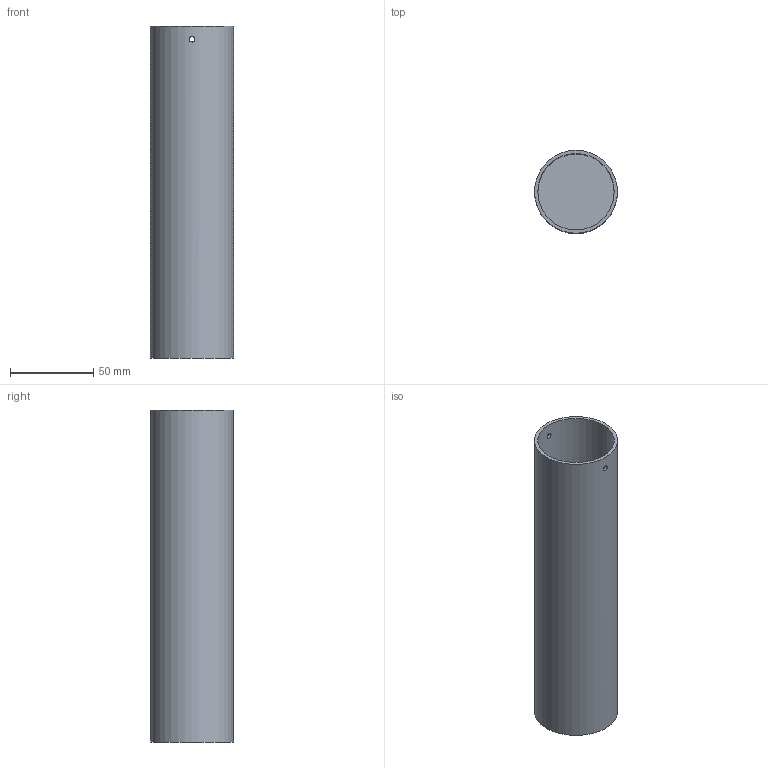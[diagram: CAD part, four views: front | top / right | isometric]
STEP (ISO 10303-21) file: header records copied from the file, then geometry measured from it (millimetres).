
FILE_DESCRIPTION(('Open CASCADE Model'),'2;1');
FILE_NAME('Open CASCADE Shape Model','2026-10-05T13:03:08',('Author'),( 'Open CASCADE'),'Open CASCADE STEP processor 7.9','Open CASCADE 7.9' ,'Unknown');
FILE_SCHEMA(('AUTOMOTIVE_DESIGN { 1 0 10303 214 1 1 1 1 }'));
Length unit declared in the file: millimetre
Products named in the file (1): Open CASCADE STEP translator 7.9 32
Bounding box: 50 x 50 x 200 mm (x, y, z)
Volume: 65270 mm3; surface area: 63819.3 mm2
Topology: 1 solids, 1 shells, 7 faces, 18 edges, 12 vertices
Faces by surface type: cylinder 4, plane 3
Full cylindrical faces by diameter (mm): 3.3 x2, 46 x1, 50 x1
Entity records: 1104 total; most frequent: CARTESIAN_POINT 758, DIRECTION 50, ORIENTED_EDGE 36, PCURVE 36, DEFINITIONAL_REPRESENTATION 36, B_SPLINE_CURVE_WITH_KNOTS 24, LINE 22, VECTOR 22
